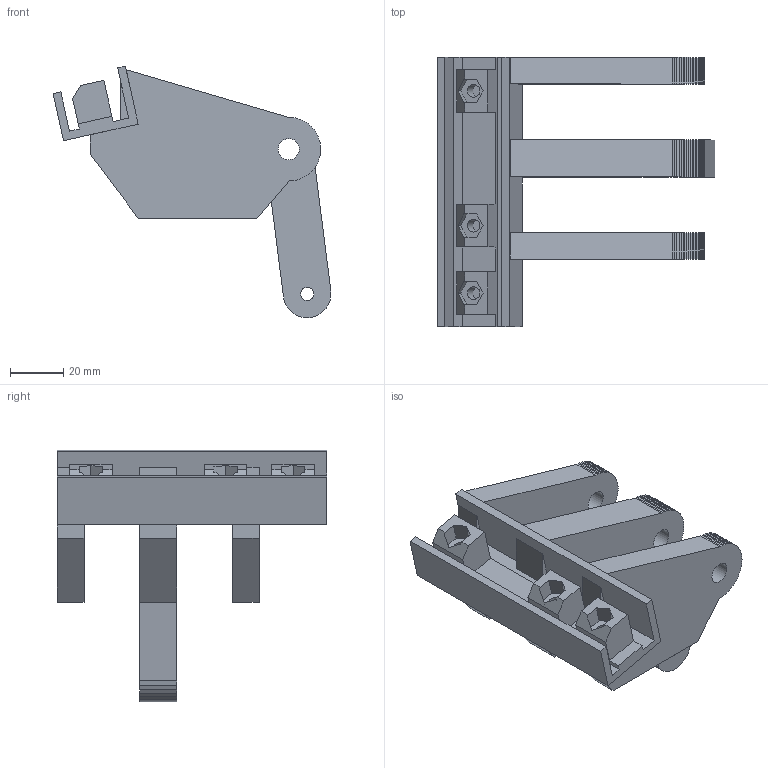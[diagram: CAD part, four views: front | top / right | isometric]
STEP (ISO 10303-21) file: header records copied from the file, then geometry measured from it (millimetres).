
FILE_DESCRIPTION(('Open CASCADE Model'),'2;1');
FILE_NAME('Open CASCADE Shape Model','2026-10-17T21:05:43',('Author'),( 'Open CASCADE'),'Open CASCADE STEP processor 7.9','Open CASCADE 7.9' ,'Unknown');
FILE_SCHEMA(('AUTOMOTIVE_DESIGN { 1 0 10303 214 1 1 1 1 }'));
Length unit declared in the file: millimetre
Products named in the file (1): Open CASCADE STEP translator 7.9 1
Bounding box: 104.73 x 101.6 x 94.8 mm (x, y, z)
Volume: 148289.4 mm3; surface area: 46050.8 mm2
Topology: 1 solids, 1 shells, 238 faces, 699 edges, 466 vertices
Faces by surface type: plane 231, cylinder 7
Full cylindrical faces by diameter (mm): 4.8 x3, 4.9 x1, 8 x3
Entity records: 16760 total; most frequent: CARTESIAN_POINT 3038, DIRECTION 2423, LINE 1917, VECTOR 1917, ORIENTED_EDGE 1398, PCURVE 1398, DEFINITIONAL_REPRESENTATION 1398, EDGE_CURVE 699
